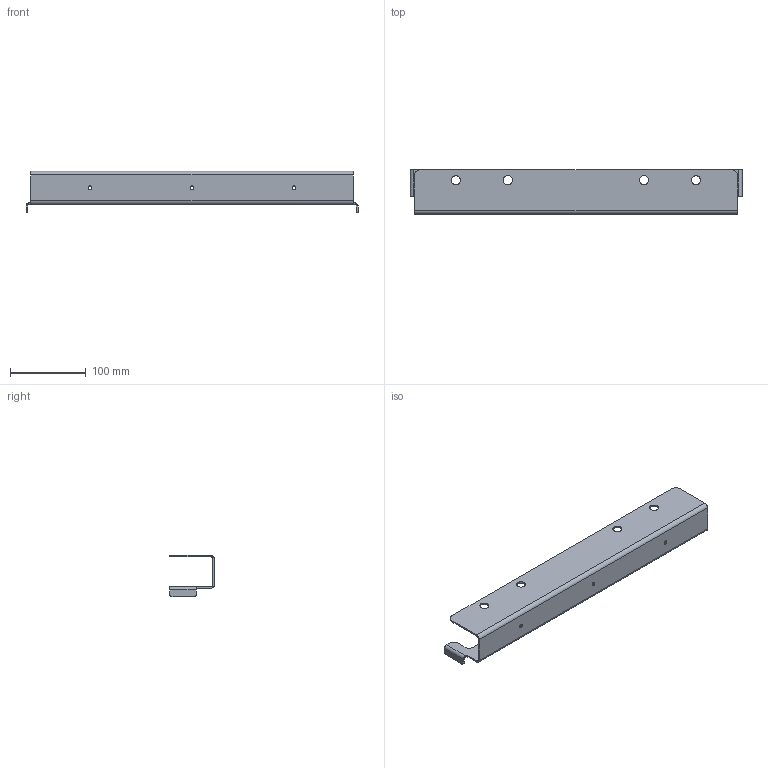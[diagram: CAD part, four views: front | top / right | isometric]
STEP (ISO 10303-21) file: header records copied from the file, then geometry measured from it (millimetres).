
FILE_DESCRIPTION(('CATIA V5 STEP Exchange'),'2;1');
FILE_NAME('E:\吉利商用车G3\10 2D\手动\钣金单件图纸\SHT0015278-高配底支架左边板\SHT0015278-C.stp','2023-09-25T01:29:41+00:00',('none'),('none'),'CATIA Version 5 Release 20 GA (IN-10)','CATIA V5 STEP AP214','none');
FILE_SCHEMA(('AUTOMOTIVE_DESIGN { 1 0 10303 214 1 1 1 1 }'));
Length unit declared in the file: millimetre
Products named in the file (1): Part60
Bounding box: 439 x 59 x 55 mm (x, y, z)
Volume: 109682.2 mm3; surface area: 112589.3 mm2
Topology: 1 solids, 1 shells, 59 faces, 173 edges, 116 vertices
Faces by surface type: cylinder 37, plane 22
Entity records: 2109 total; most frequent: CARTESIAN_POINT 534, ORIENTED_EDGE 346, DIRECTION 266, EDGE_CURVE 173, AXIS2_PLACEMENT_3D 118, VERTEX_POINT 116, VECTOR 93, LINE 93
